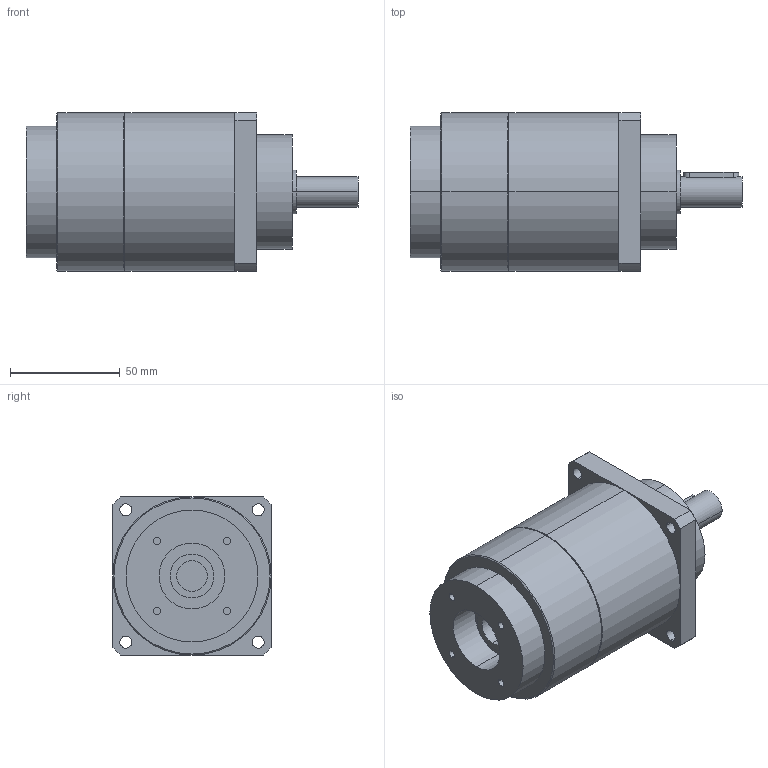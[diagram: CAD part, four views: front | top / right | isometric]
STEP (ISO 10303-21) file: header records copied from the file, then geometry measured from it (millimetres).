
FILE_DESCRIPTION(('CoCreate Modeling STEP Export'),'2;1');
FILE_NAME('GPT75_ig-9-12-16-20-25-28-35-40-50-70-100_14_B5T_14_P16.stp','2014-08-27T13:37:55',(''),(''),'CoCreate Modeling STEP processor for AP214 (Solid Model)','CoCreate Modeling 16.00C 25-Feb-2009 (C) Parametric Technology GmbH','');
FILE_SCHEMA(('AUTOMOTIVE_DESIGN { 1 0 10303 214 1 1 1 1 }'));
Length unit declared in the file: millimetre
Products named in the file (2): GPT75_ig-9-12-16-20-25-28-35-40-50-70-100_14_B5T_14_P16
Assembly tree (1 placements, depth 2):
  GPT75_ig-9-12-16-20-25-28-35-40-50-70-100_14_B5T_14_P16
    GPT75_ig-9-12-16-20-25-28-35-40-50-70-100_14_B5T_14_P16
Bounding box: 151 x 72 x 72 mm (x, y, z)
Volume: 444650.5 mm3; surface area: 42524.9 mm2
Topology: 1 solids, 1 shells, 72 faces, 170 edges, 113 vertices
Faces by surface type: cylinder 42, plane 26, cone 4
Entity records: 2201 total; most frequent: CARTESIAN_POINT 669, ORIENTED_EDGE 340, DIRECTION 268, EDGE_CURVE 170, VERTEX_POINT 113, AXIS2_PLACEMENT_3D 100, EDGE_LOOP 93, FACE_OUTER_BOUND 72
